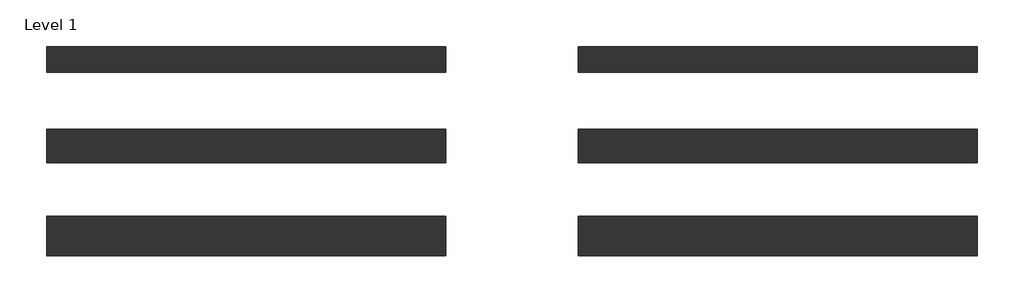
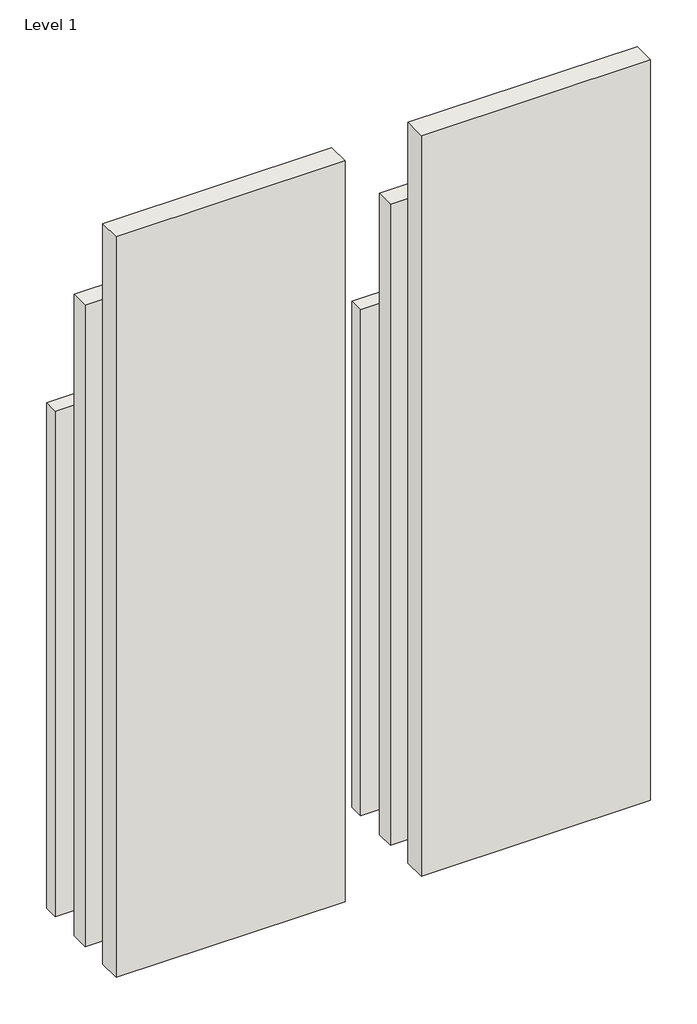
# One storey: 6 walls.
"""IFC4 building model written with IfcOpenShell, lengths in millimetres."""

from ifc_helpers import new_model, si_unit, origin, origin_with_axes, place, context, project, spatial, polyline, outline, extrude, element, save

model = new_model("IFC4")

# Units and contexts
model_context = context("Model", 3, world=origin())
ifc_project = project(units=[si_unit("LENGTHUNIT", "METRE", prefix="MILLI")], contexts=[model_context])

# Site, building, storey
site = spatial("IfcSite", under=ifc_project)
building = spatial("IfcBuilding", under=site)
storey = spatial("IfcBuildingStorey", under=building, Name="Level 1", Elevation=0.0)

# Walls
placement = place(None, origin())
element("IfcWall", 1, ObjectType="Tabique Simple – Placo® 78(48) BA15 + 48LM + PPM15 c/400 - 43,2 dBA", at=placement, inside=storey, context=model_context, shape_type="SweptSolid", body=[
    extrude(outline(polyline([(-658.8872801, -1991.0445576), (-1858.8872801, -1991.0445576), (-1858.8872801, -1913.0445576), (-658.8872801, -1913.0445576), (-658.8872801, -1991.0445576)])), origin_with_axes(), (0.0, 0.0, 1.0), 2800.0),
])
element("IfcWall", 2, ObjectType="Tabique Simple – Placo® 100(70) BA15 + 70LM + PPM15 c/400 - 45,7 dBA", at=placement, inside=storey, context=model_context, shape_type="SweptSolid", body=[
    extrude(outline(polyline([(-658.8872801, -2262.0445576), (-1858.8872801, -2262.0445576), (-1858.8872801, -2162.0445576), (-658.8872801, -2162.0445576), (-658.8872801, -2262.0445576)])), origin_with_axes(), (0.0, 0.0, 1.0), 3550.0),
])
element("IfcWall", 3, ObjectType="Tabique Simple – Placo® 120(90) BA15 + 90LM + PPM15 c/400 - 47 dBA", at=placement, inside=storey, context=model_context, shape_type="SweptSolid", body=[
    extrude(outline(polyline([(-658.8872801, -2543.0445576), (-1858.8872801, -2543.0445576), (-1858.8872801, -2423.0445576), (-658.8872801, -2423.0445576), (-658.8872801, -2543.0445576)])), origin_with_axes(), (0.0, 0.0, 1.0), 4100.0),
])
element("IfcWall", 4, ObjectType="Tabique Simple – Placo® 78(48) PPM15 + 48LM + PPM15 c/400 - 43,2 dBA 2", at=placement, inside=storey, context=model_context, shape_type="SweptSolid", body=[
    extrude(outline(polyline([(941.1127199, -1991.0445576), (-258.8872801, -1991.0445576), (-258.8872801, -1913.0445576), (941.1127199, -1913.0445576), (941.1127199, -1991.0445576)])), origin_with_axes(), (0.0, 0.0, 1.0), 2800.0),
])
element("IfcWall", 5, ObjectType="Tabique Simple – Placo® 100(70) PPM15 + 70LM + PPM15 c/400 - 45,7 dBA 2", at=placement, inside=storey, context=model_context, shape_type="SweptSolid", body=[
    extrude(outline(polyline([(941.1127199, -2262.0445576), (-258.8872801, -2262.0445576), (-258.8872801, -2162.0445576), (941.1127199, -2162.0445576), (941.1127199, -2262.0445576)])), origin_with_axes(), (0.0, 0.0, 1.0), 3550.0),
])
element("IfcWall", 6, ObjectType="Tabique Simple – Placo® 120(90) PPM15 + 90LM + PPM15 c/400 - 47 dBA 2", at=placement, inside=storey, context=model_context, shape_type="SweptSolid", body=[
    extrude(outline(polyline([(941.1127199, -2543.0445576), (-258.8872801, -2543.0445576), (-258.8872801, -2423.0445576), (941.1127199, -2423.0445576), (941.1127199, -2543.0445576)])), origin_with_axes(), (0.0, 0.0, 1.0), 4100.0),
])

save(model, "model.ifc")
